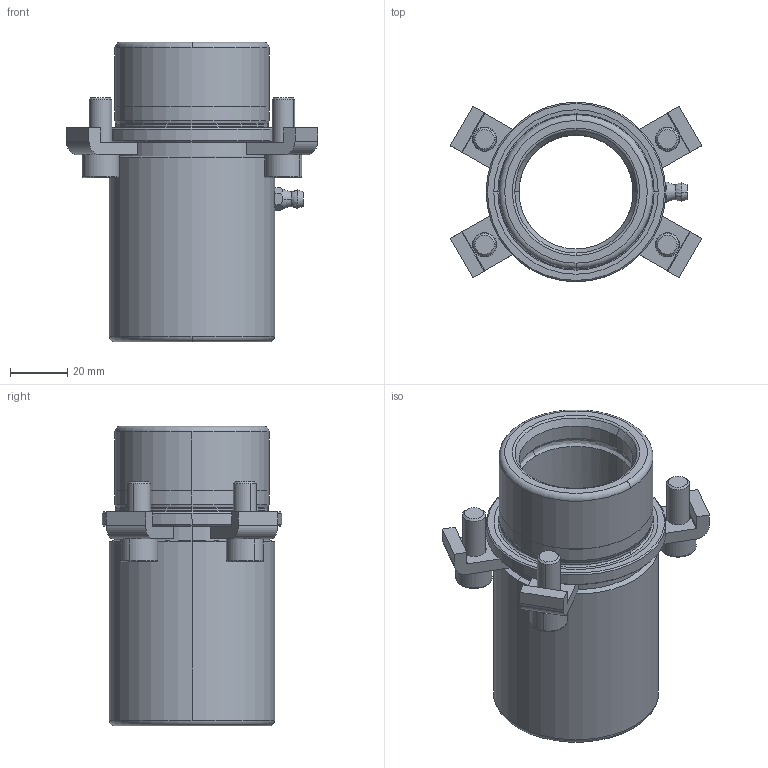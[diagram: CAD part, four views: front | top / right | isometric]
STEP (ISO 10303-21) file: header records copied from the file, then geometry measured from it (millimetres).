
FILE_DESCRIPTION((''),'2;1');
FILE_NAME('B10_040_075.stp','2008-11-06T08:55:43',(''),(''),'Mechanical Desktop 2009','Mechanical Desktop 2009',', , ');
FILE_SCHEMA(('CONFIG_CONTROL_DESIGN'));
Length unit declared in the file: millimetre
Products named in the file (2): Product; blmdl1
Assembly tree (1 placements, depth 2):
  Product
    blmdl1
Bounding box: 88.14 x 63 x 105 mm (x, y, z)
Volume: 146938.1 mm3; surface area: 45380.8 mm2
Topology: 10 solids, 10 shells, 210 faces, 529 edges, 348 vertices
Faces by surface type: plane 90, cylinder 60, cone 24, bspline 18, torus 18
Entity records: 7642 total; most frequent: CARTESIAN_POINT 2348, DIRECTION 1151, ORIENTED_EDGE 1050, EDGE_CURVE 525, AXIS2_PLACEMENT_3D 449, VERTEX_POINT 346, CIRCLE 255, VECTOR 253
